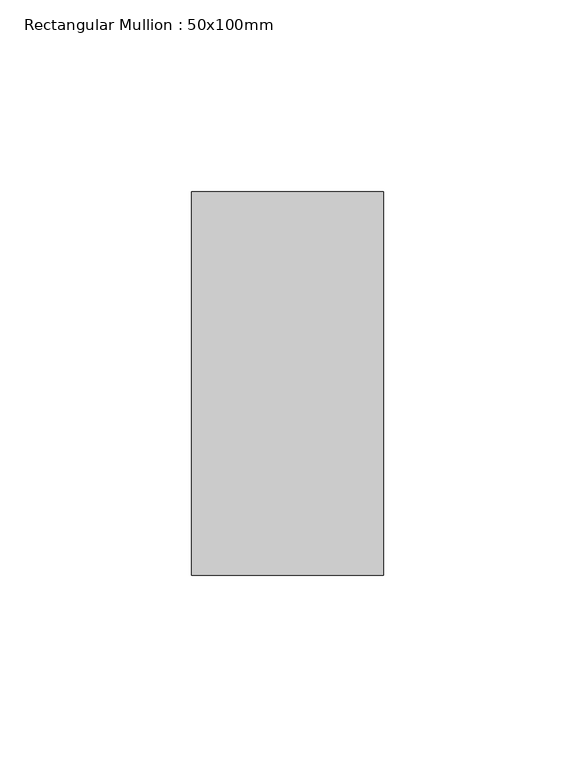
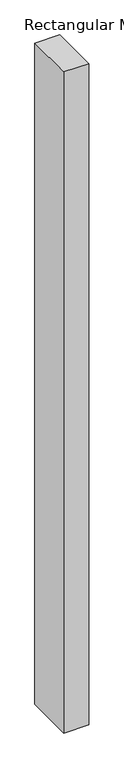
"""IFC4 building model written with IfcOpenShell, lengths in millimetres: member geometry, Rectangular Mullion : 50x100mm."""

from ifc_helpers import new_model, si_unit, frame, origin, place, context, project, spatial, polyline, outline, extrude, source, transform, mapped, element, save


def rectangular_mullion_50x100mm_1a3cd655(model_context):
    return source(origin(), model_context, "Body", "SweptSolid", [
        extrude(outline(polyline([(0.0, 50.0), (0.0, -50.0), (-50.0, -50.0), (-50.0, 50.0), (0.0, 50.0)])), frame((0.0, 0.0, -1394.5572953), z_axis=(0.0, 0.0, 1.0), x_axis=(1.0, 0.0, 0.0)), (0.0, 0.0, 1.0), 1394.5572953),
    ])


if __name__ == "__main__":
    model = new_model("IFC4")
    model_context = context("Model", 3, world=origin())
    ifc_project = project(units=[si_unit("LENGTHUNIT", "METRE", prefix="MILLI")], contexts=[model_context])
    site = spatial("IfcSite", under=ifc_project)
    building = spatial("IfcBuilding", under=site)
    placement = place(None, origin())
    rectangular_mullion_50x100mm_shape = rectangular_mullion_50x100mm_1a3cd655(model_context)
    element("IfcMember", 1, ObjectType="Rectangular Mullion : 50x100mm", at=placement, inside=building, context=model_context, shape_type="MappedRepresentation", body=[
        mapped(rectangular_mullion_50x100mm_shape, transform((0.0, 0.0, 0.0), x_axis=(1.0, 0.0, 0.0), y_axis=(0.0, 1.0, 0.0), z_axis=(0.0, 0.0, 1.0))),
    ])
    save(model, "model.ifc")
